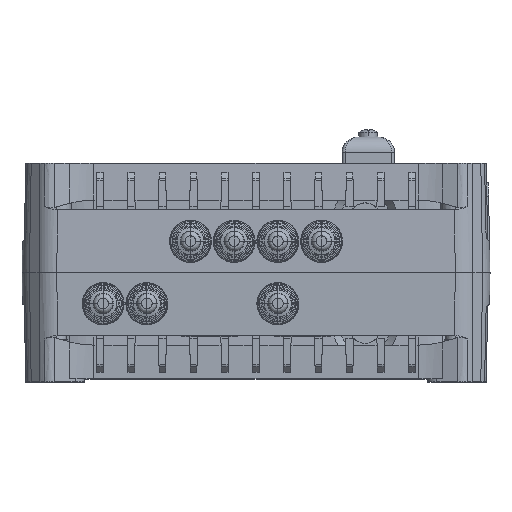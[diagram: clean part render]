
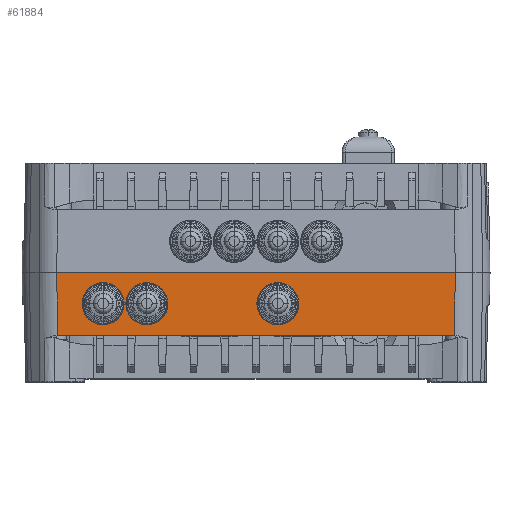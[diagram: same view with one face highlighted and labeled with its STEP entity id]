
A CAD part, top view. The second image highlights one B-rep face of the part: STEP entity #61884.
In plain terms, the highlighted planar face has unit normal (0, -0.018, 1).
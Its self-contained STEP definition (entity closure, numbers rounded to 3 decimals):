
#627 = CARTESIAN_POINT ( 'NONE',  ( -29.5, -10., 54.825 ) ) ;
#5577 = VERTEX_POINT ( 'NONE', #153643 ) ;
#7393 = DIRECTION ( 'NONE',  ( 0., -0.017, 1. ) ) ;
#8503 =( BOUNDED_CURVE ( )  B_SPLINE_CURVE ( 3, ( #12016, #136635, #178837, #179453 ),
 .UNSPECIFIED., .F., .F. ) 
 B_SPLINE_CURVE_WITH_KNOTS ( ( 4, 4 ),
 ( 1.571, 4.712 ),
 .UNSPECIFIED. ) 
 CURVE ( )  GEOMETRIC_REPRESENTATION_ITEM ( )  RATIONAL_B_SPLINE_CURVE ( ( 1., 0.333, 0.333, 1. ) ) 
 REPRESENTATION_ITEM ( '' )  );
#9930 = EDGE_CURVE ( 'NONE', #91386, #93033, #151225, .T. ) ;
#12016 = CARTESIAN_POINT ( 'NONE',  ( 1.5, -10., 54.825 ) ) ;
#13650 = CARTESIAN_POINT ( 'NONE',  ( 12.5, -10., 54.825 ) ) ;
#18331 = ORIENTED_EDGE ( 'NONE', *, *, #121055, .T. ) ;
#18335 = CARTESIAN_POINT ( 'NONE',  ( -43.5, -21., 54.633 ) ) ;
#19113 = CARTESIAN_POINT ( 'NONE',  ( -54.5, -10., 54.825 ) ) ;
#21488 = CARTESIAN_POINT ( 'NONE',  ( -63.829, 0.024, 55. ) ) ;
#23590 = ORIENTED_EDGE ( 'NONE', *, *, #156682, .T. ) ;
#28517 = ORIENTED_EDGE ( 'NONE', *, *, #9930, .T. ) ;
#29062 = FACE_OUTER_BOUND ( 'NONE', #60779, .T. ) ;
#31260 = ORIENTED_EDGE ( 'NONE', *, *, #89607, .T. ) ;
#32451 = CARTESIAN_POINT ( 'NONE',  ( -29.5, 1., 55.017 ) ) ;
#34762 = VECTOR ( 'NONE', #91864, 1000. ) ;
#36109 = EDGE_CURVE ( 'NONE', #148321, #5577, #157086, .T. ) ;
#36550 = CARTESIAN_POINT ( 'NONE',  ( 63.683, -20.178, 54.648 ) ) ;
#40366 = CARTESIAN_POINT ( 'NONE',  ( -43.5, -10., 54.825 ) ) ;
#42051 = CARTESIAN_POINT ( 'NONE',  ( 1.5, -10., 54.825 ) ) ;
#42331 = CARTESIAN_POINT ( 'NONE',  ( -63.683, -20.178, 54.648 ) ) ;
#43598 = EDGE_CURVE ( 'NONE', #77474, #85919, #74623, .T. ) ;
#45784 = CARTESIAN_POINT ( 'NONE',  ( -40.5, 1., 55.017 ) ) ;
#47619 = CARTESIAN_POINT ( 'NONE',  ( -43.5, -10., 54.825 ) ) ;
#48180 = CARTESIAN_POINT ( 'NONE',  ( -40.5, -10., 54.825 ) ) ;
#49545 =( BOUNDED_CURVE ( )  B_SPLINE_CURVE ( 3, ( #13650, #167148, #110483, #42051 ),
 .UNSPECIFIED., .F., .F. ) 
 B_SPLINE_CURVE_WITH_KNOTS ( ( 4, 4 ),
 ( 4.712, 7.854 ),
 .UNSPECIFIED. ) 
 CURVE ( )  GEOMETRIC_REPRESENTATION_ITEM ( )  RATIONAL_B_SPLINE_CURVE ( ( 1., 0.333, 0.333, 1. ) ) 
 REPRESENTATION_ITEM ( '' )  );
#51553 = VERTEX_POINT ( 'NONE', #82390 ) ;
#53781 = CARTESIAN_POINT ( 'NONE',  ( 67.07, -20.178, 54.648 ) ) ;
#54284 = CARTESIAN_POINT ( 'NONE',  ( -63.829, 0., 55. ) ) ;
#54936 = FACE_BOUND ( 'NONE', #124394, .T. ) ;
#60750 = CARTESIAN_POINT ( 'NONE',  ( -54.5, -21., 54.633 ) ) ;
#60779 = EDGE_LOOP ( 'NONE', ( #172948, #166961, #77449, #92508 ) ) ;
#61413 = CARTESIAN_POINT ( 'NONE',  ( -40.5, -10., 54.825 ) ) ;
#61884 = ADVANCED_FACE ( 'NONE', ( #65900, #29062, #98345, #54936 ), #102480, .T. ) ;
#62923 = LINE ( 'NONE', #53781, #34762 ) ;
#65900 = FACE_BOUND ( 'NONE', #77118, .T. ) ;
#67843 = VECTOR ( 'NONE', #143667, 1000. ) ;
#68492 = EDGE_CURVE ( 'NONE', #70040, #148321, #62923, .T. ) ;
#70040 = VERTEX_POINT ( 'NONE', #42331 ) ;
#70686 =( BOUNDED_CURVE ( )  B_SPLINE_CURVE ( 3, ( #158179, #75494, #145496, #47619 ),
 .UNSPECIFIED., .F., .F. ) 
 B_SPLINE_CURVE_WITH_KNOTS ( ( 4, 4 ),
 ( 1.571, 4.712 ),
 .UNSPECIFIED. ) 
 CURVE ( )  GEOMETRIC_REPRESENTATION_ITEM ( )  RATIONAL_B_SPLINE_CURVE ( ( 1., 0.333, 0.333, 1. ) ) 
 REPRESENTATION_ITEM ( '' )  );
#74623 =( BOUNDED_CURVE ( )  B_SPLINE_CURVE ( 3, ( #131455, #117627, #77708, #61413 ),
 .UNSPECIFIED., .F., .F. ) 
 B_SPLINE_CURVE_WITH_KNOTS ( ( 4, 4 ),
 ( 4.712, 7.854 ),
 .UNSPECIFIED. ) 
 CURVE ( )  GEOMETRIC_REPRESENTATION_ITEM ( )  RATIONAL_B_SPLINE_CURVE ( ( 1., 0.333, 0.333, 1. ) ) 
 REPRESENTATION_ITEM ( '' )  );
#75494 = CARTESIAN_POINT ( 'NONE',  ( -54.5, 1., 55.017 ) ) ;
#77118 = EDGE_LOOP ( 'NONE', ( #23590, #131176 ) ) ;
#77449 = ORIENTED_EDGE ( 'NONE', *, *, #68492, .T. ) ;
#77474 = VERTEX_POINT ( 'NONE', #627 ) ;
#77708 = CARTESIAN_POINT ( 'NONE',  ( -40.5, -21., 54.633 ) ) ;
#80457 = EDGE_CURVE ( 'NONE', #127645, #70040, #106703, .T. ) ;
#82390 = CARTESIAN_POINT ( 'NONE',  ( 1.5, -10., 54.825 ) ) ;
#82429 = CARTESIAN_POINT ( 'NONE',  ( -67.142, 0., 55. ) ) ;
#85919 = VERTEX_POINT ( 'NONE', #153531 ) ;
#88589 = CARTESIAN_POINT ( 'NONE',  ( -43.5, -10., 54.825 ) ) ;
#89212 = DIRECTION ( 'NONE',  ( 0., -1., -0.017 ) ) ;
#89607 = EDGE_CURVE ( 'NONE', #85919, #77474, #145158, .T. ) ;
#90379 = CARTESIAN_POINT ( 'NONE',  ( -67.142, 0., 55. ) ) ;
#91386 = VERTEX_POINT ( 'NONE', #40366 ) ;
#91864 = DIRECTION ( 'NONE',  ( 1., 0., 0. ) ) ;
#92508 = ORIENTED_EDGE ( 'NONE', *, *, #36109, .T. ) ;
#93033 = VERTEX_POINT ( 'NONE', #19113 ) ;
#98345 = FACE_BOUND ( 'NONE', #138265, .T. ) ;
#101881 = VECTOR ( 'NONE', #121707, 1000. ) ;
#102480 = PLANE ( 'NONE',  #177283 ) ;
#103244 = CARTESIAN_POINT ( 'NONE',  ( -29.5, -10., 54.825 ) ) ;
#106703 = LINE ( 'NONE', #21488, #67843 ) ;
#106871 = DIRECTION ( 'NONE',  ( 0.007, 1., 0.017 ) ) ;
#107231 = VERTEX_POINT ( 'NONE', #161560 ) ;
#107456 = EDGE_CURVE ( 'NONE', #127645, #5577, #173411, .T. ) ;
#110483 = CARTESIAN_POINT ( 'NONE',  ( 1.5, -21., 54.633 ) ) ;
#117627 = CARTESIAN_POINT ( 'NONE',  ( -29.5, -21., 54.633 ) ) ;
#118869 = ORIENTED_EDGE ( 'NONE', *, *, #43598, .T. ) ;
#120399 = VECTOR ( 'NONE', #106871, 1000. ) ;
#121055 = EDGE_CURVE ( 'NONE', #93033, #91386, #70686, .T. ) ;
#121707 = DIRECTION ( 'NONE',  ( 1., 0., 0. ) ) ;
#124394 = EDGE_LOOP ( 'NONE', ( #31260, #118869 ) ) ;
#127645 = VERTEX_POINT ( 'NONE', #54284 ) ;
#130143 = EDGE_CURVE ( 'NONE', #107231, #51553, #49545, .T. ) ;
#131176 = ORIENTED_EDGE ( 'NONE', *, *, #130143, .T. ) ;
#131455 = CARTESIAN_POINT ( 'NONE',  ( -29.5, -10., 54.825 ) ) ;
#133425 = CARTESIAN_POINT ( 'NONE',  ( 63.822, -0.947, 54.983 ) ) ;
#136635 = CARTESIAN_POINT ( 'NONE',  ( 1.5, 1., 55.017 ) ) ;
#138265 = EDGE_LOOP ( 'NONE', ( #18331, #28517 ) ) ;
#143667 = DIRECTION ( 'NONE',  ( 0.007, -1., -0.017 ) ) ;
#144104 = CARTESIAN_POINT ( 'NONE',  ( -54.5, -10., 54.825 ) ) ;
#145158 =( BOUNDED_CURVE ( )  B_SPLINE_CURVE ( 3, ( #48180, #45784, #32451, #103244 ),
 .UNSPECIFIED., .F., .F. ) 
 B_SPLINE_CURVE_WITH_KNOTS ( ( 4, 4 ),
 ( 1.571, 4.712 ),
 .UNSPECIFIED. ) 
 CURVE ( )  GEOMETRIC_REPRESENTATION_ITEM ( )  RATIONAL_B_SPLINE_CURVE ( ( 1., 0.333, 0.333, 1. ) ) 
 REPRESENTATION_ITEM ( '' )  );
#145496 = CARTESIAN_POINT ( 'NONE',  ( -43.5, 1., 55.017 ) ) ;
#148321 = VERTEX_POINT ( 'NONE', #36550 ) ;
#151225 =( BOUNDED_CURVE ( )  B_SPLINE_CURVE ( 3, ( #88589, #18335, #60750, #144104 ),
 .UNSPECIFIED., .F., .F. ) 
 B_SPLINE_CURVE_WITH_KNOTS ( ( 4, 4 ),
 ( 4.712, 7.854 ),
 .UNSPECIFIED. ) 
 CURVE ( )  GEOMETRIC_REPRESENTATION_ITEM ( )  RATIONAL_B_SPLINE_CURVE ( ( 1., 0.333, 0.333, 1. ) ) 
 REPRESENTATION_ITEM ( '' )  );
#153531 = CARTESIAN_POINT ( 'NONE',  ( -40.5, -10., 54.825 ) ) ;
#153643 = CARTESIAN_POINT ( 'NONE',  ( 63.829, 0., 55. ) ) ;
#156682 = EDGE_CURVE ( 'NONE', #51553, #107231, #8503, .T. ) ;
#157086 = LINE ( 'NONE', #133425, #120399 ) ;
#158179 = CARTESIAN_POINT ( 'NONE',  ( -54.5, -10., 54.825 ) ) ;
#161560 = CARTESIAN_POINT ( 'NONE',  ( 12.5, -10., 54.825 ) ) ;
#166961 = ORIENTED_EDGE ( 'NONE', *, *, #80457, .T. ) ;
#167148 = CARTESIAN_POINT ( 'NONE',  ( 12.5, -21., 54.633 ) ) ;
#172948 = ORIENTED_EDGE ( 'NONE', *, *, #107456, .F. ) ;
#173411 = LINE ( 'NONE', #82429, #101881 ) ;
#177283 = AXIS2_PLACEMENT_3D ( 'NONE', #90379, #7393, #89212 ) ;
#178837 = CARTESIAN_POINT ( 'NONE',  ( 12.5, 1., 55.017 ) ) ;
#179453 = CARTESIAN_POINT ( 'NONE',  ( 12.5, -10., 54.825 ) ) ;
